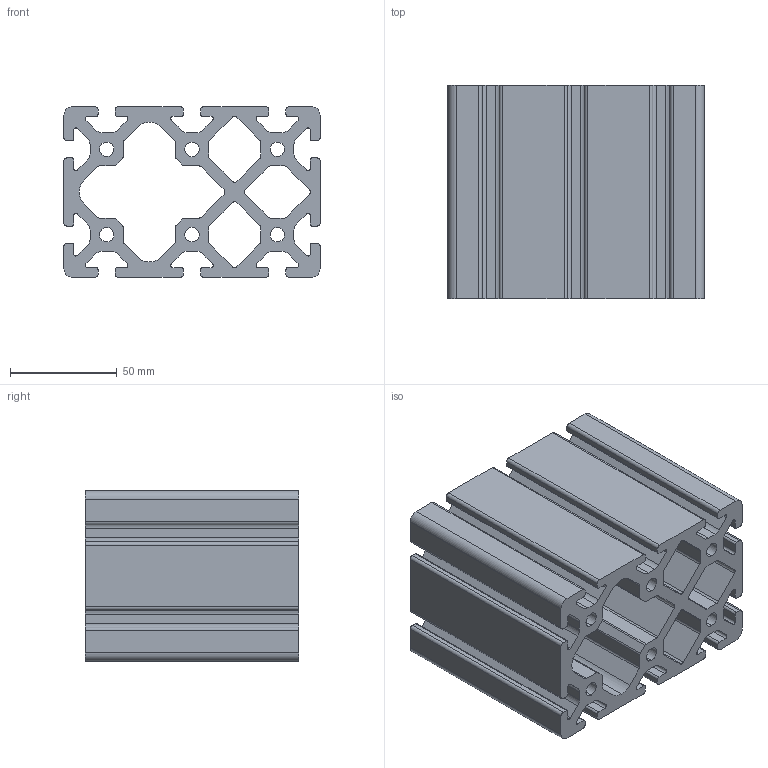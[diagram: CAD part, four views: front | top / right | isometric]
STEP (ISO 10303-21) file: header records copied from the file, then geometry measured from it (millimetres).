
FILE_DESCRIPTION (( 'STEP AP203' ), '1' );
FILE_NAME ('0108P12080S.STEP', '2024-02-28T08:01:29', ( 'Windows-Benutzer' ), ( '' ), 'SwSTEP 2.0', 'SolidWorks 2023', '' );
FILE_SCHEMA (( 'CONFIG_CONTROL_DESIGN' ));
Length unit declared in the file: millimetre
Products named in the file (1): 0108P12080S
Bounding box: 120 x 100 x 80 mm (x, y, z)
Volume: 406394.1 mm3; surface area: 143982.8 mm2
Topology: 1 solids, 1 shells, 265 faces, 789 edges, 526 vertices
Faces by surface type: cylinder 141, plane 124
Entity records: 9102 total; most frequent: DIRECTION 1603, CARTESIAN_POINT 1581, ORIENTED_EDGE 1578, EDGE_CURVE 789, AXIS2_PLACEMENT_3D 548, VERTEX_POINT 526, LINE 507, VECTOR 507
